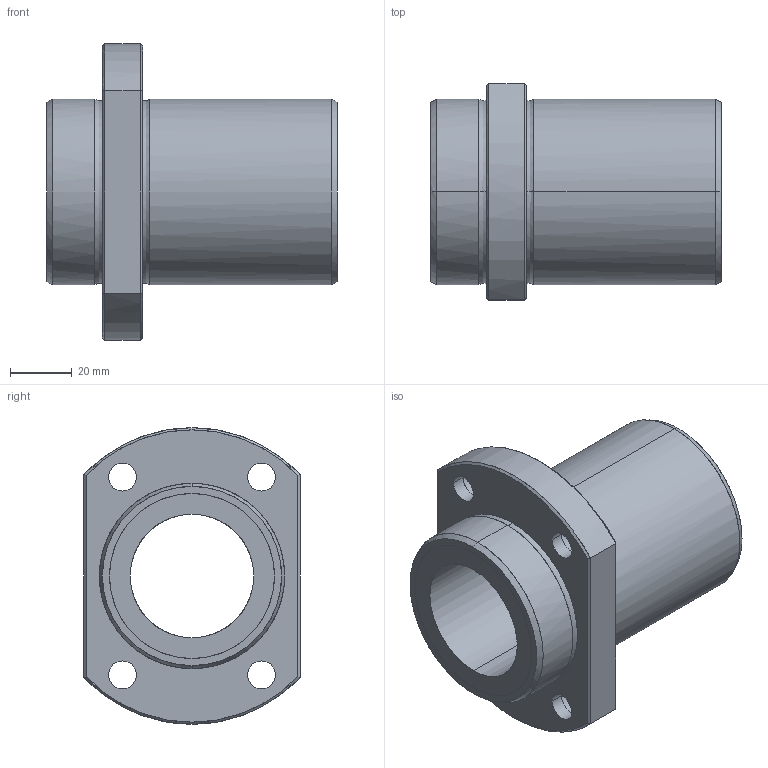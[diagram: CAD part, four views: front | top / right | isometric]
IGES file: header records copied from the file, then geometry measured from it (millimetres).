
Global section: file name: No Iges File Name specified; native system: AutoDesk Inventor R11.0; preprocessor: AutoDesk Inventor Iges Exporter R11.0; author: No Author specified; organization: No Organization specified; date: 20170921.135555; units: millimetre
Bounding box: 94 x 70 x 96 mm (x, y, z)
Surface area: 41596.6 mm2 (no closed solid volume)
Topology: 0 solids, 0 shells, 57 faces, 382 edges, 382 vertices
Faces by surface type: bspline 57
